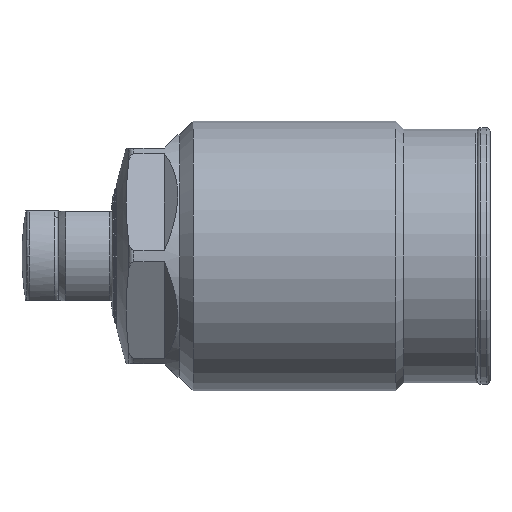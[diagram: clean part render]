
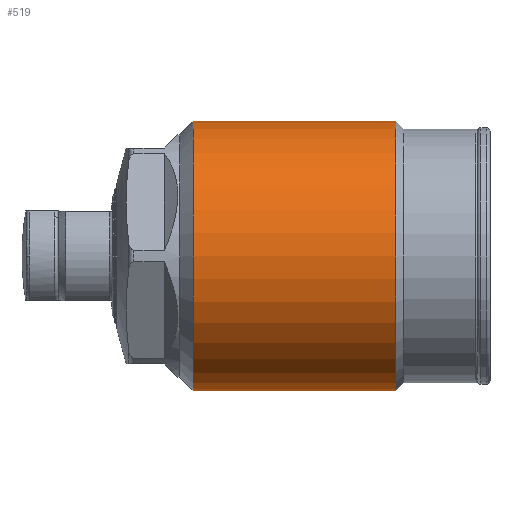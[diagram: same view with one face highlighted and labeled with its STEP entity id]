
A CAD part, left-side view. The second image highlights one B-rep face of the part: STEP entity #519.
In plain terms, the highlighted cylindrical face has radius 15 mm (diameter 30 mm), a partial arc.
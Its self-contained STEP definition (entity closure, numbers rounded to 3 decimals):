
#322=CYLINDRICAL_SURFACE('',#2953,15.);
#519=ADVANCED_FACE('',(#699),#322,.T.);
#699=FACE_OUTER_BOUND('',#871,.T.);
#871=EDGE_LOOP('',(#1703,#1704,#1705,#1706));
#971=LINE('',#4590,#1064);
#972=LINE('',#4594,#1065);
#1064=VECTOR('',#3607,1.);
#1065=VECTOR('',#3610,1.);
#1703=ORIENTED_EDGE('',*,*,#2284,.T.);
#1704=ORIENTED_EDGE('',*,*,#2363,.T.);
#1705=ORIENTED_EDGE('',*,*,#2286,.F.);
#1706=ORIENTED_EDGE('',*,*,#2362,.F.);
#1974=VERTEX_POINT('',#4585);
#1975=VERTEX_POINT('',#4587);
#1976=VERTEX_POINT('',#4591);
#1977=VERTEX_POINT('',#4593);
#2284=EDGE_CURVE('',#1976,#1974,#971,.T.);
#2286=EDGE_CURVE('',#1977,#1975,#972,.T.);
#2362=EDGE_CURVE('',#1976,#1977,#2591,.T.);
#2363=EDGE_CURVE('',#1974,#1975,#2592,.T.);
#2591=CIRCLE('',#2950,15.);
#2592=CIRCLE('',#2952,15.);
#2950=AXIS2_PLACEMENT_3D('',#4948,#3777,#3778);
#2952=AXIS2_PLACEMENT_3D('',#4950,#3781,#3782);
#2953=AXIS2_PLACEMENT_3D('',#4951,#3783,#3784);
#3607=DIRECTION('',(0.,1.,0.));
#3610=DIRECTION('',(0.,1.,0.));
#3777=DIRECTION('',(0.,-1.,0.));
#3778=DIRECTION('',(0.,0.,-1.));
#3781=DIRECTION('',(0.,-1.,0.));
#3782=DIRECTION('',(0.,0.,-1.));
#3783=DIRECTION('',(0.,-1.,0.));
#3784=DIRECTION('',(0.,0.,1.));
#4585=CARTESIAN_POINT('',(37.168,38.122,15.));
#4587=CARTESIAN_POINT('',(37.168,38.122,-15.));
#4590=CARTESIAN_POINT('',(37.168,1.788,15.));
#4591=CARTESIAN_POINT('',(37.168,15.622,15.));
#4593=CARTESIAN_POINT('',(37.168,15.622,-15.));
#4594=CARTESIAN_POINT('',(37.168,1.788,-15.));
#4948=CARTESIAN_POINT('',(37.168,15.622,0.));
#4950=CARTESIAN_POINT('',(37.168,38.122,0.));
#4951=CARTESIAN_POINT('',(37.168,1.788,0.));
